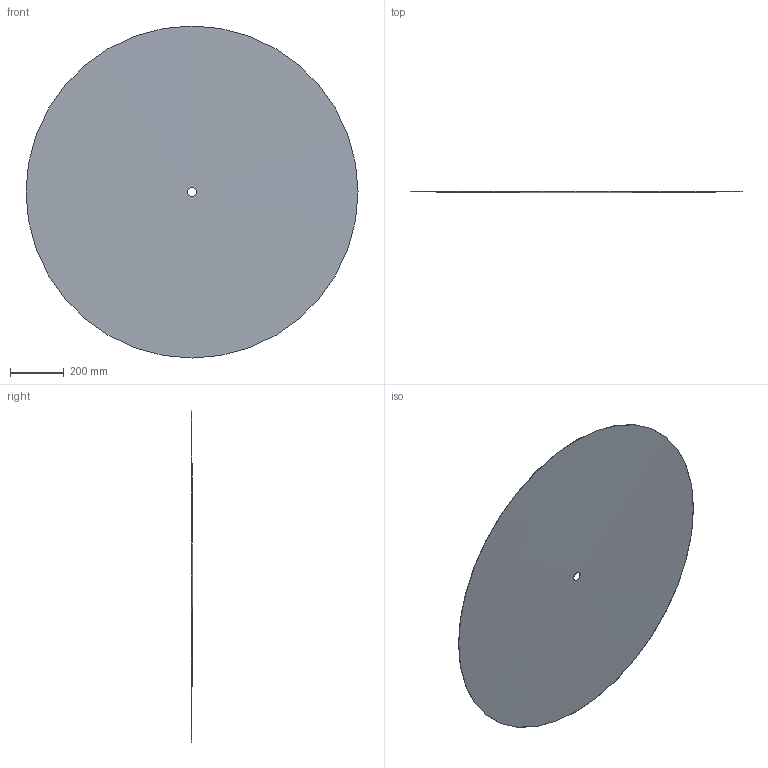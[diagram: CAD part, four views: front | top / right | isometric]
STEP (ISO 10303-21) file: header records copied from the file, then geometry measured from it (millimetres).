
FILE_DESCRIPTION(/* description */ ('2023N'),/* implementation_level */ '2;1');
FILE_NAME(/* name */ 'ST.0340.0123.0125.step',/* time_stamp */ '2026-09-18T10:29:46+02:00',/* author */ ('impex-ready.pl'),/* organization */ ('ST.0340.0123.0125'),/* preprocessor_version */ 'ST-DEVELOPER v20.1',/* originating_system */ 'Autodesk Inventor 2026',/* authorisation */ 'Ugiecie 0,75 h0 = 0.90');
FILE_SCHEMA (('AUTOMOTIVE_DESIGN { 1 0 10303 214 3 1 1 }'));
Length unit declared in the file: millimetre
Products named in the file (1): ST.0340.0123.0125
Bounding box: 1230 x 4.95 x 1230 mm (x, y, z)
Volume: 1484179.6 mm3; surface area: 2379651.2 mm2
Topology: 1 solids, 1 shells, 4 faces, 8 edges, 4 vertices
Faces by surface type: cone 2, cylinder 2
Full cylindrical faces by diameter (mm): 34 x1, 1230 x1
Entity records: 151 total; most frequent: DIRECTION 22, CARTESIAN_POINT 17, ORIENTED_EDGE 16, AXIS2_PLACEMENT_3D 9, EDGE_CURVE 8, FACE_OUTER_BOUND 4, EDGE_LOOP 4, LINE 4
